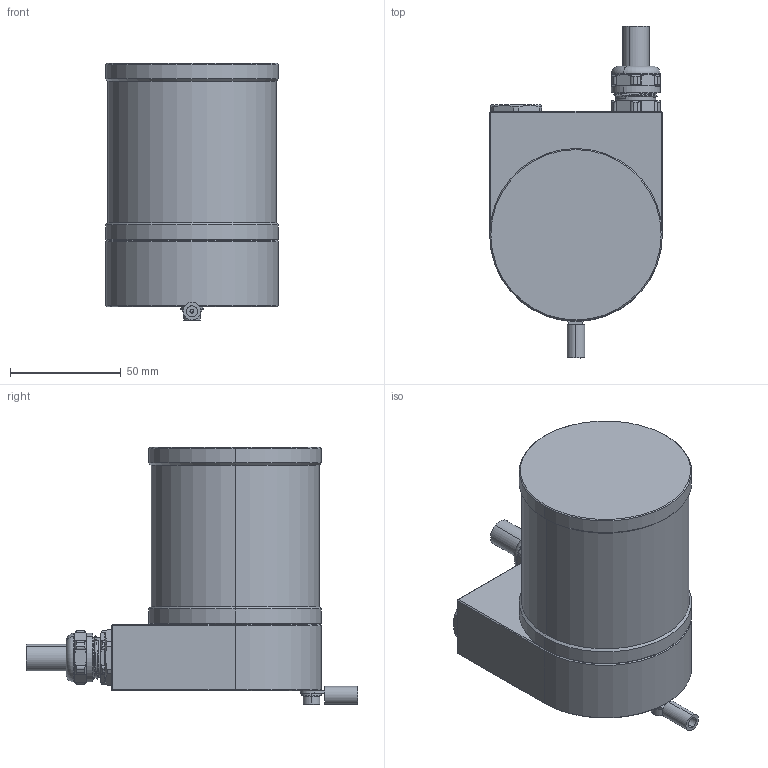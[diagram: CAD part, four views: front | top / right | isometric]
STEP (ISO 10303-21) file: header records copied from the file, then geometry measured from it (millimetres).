
FILE_DESCRIPTION (( 'STEP AP214' ), '1' );
FILE_NAME ('drawing-oc-7-at-800-aem-hccnnn-y-2rw-n.STEP', '2023-06-26T11:52:40', ( '' ), ( '' ), 'SwSTEP 2.0', 'SolidWorks 2022', '' );
FILE_SCHEMA (( 'AUTOMOTIVE_DESIGN' ));
Length unit declared in the file: millimetre
Products named in the file (1): drawing-oc-7-at-800-aem-hccnnn-y-2rw-n
Bounding box: 78 x 150.02 x 116.2 mm (x, y, z)
Volume: 274872 mm3; surface area: 96870.5 mm2
Topology: 17 solids, 23 shells, 947 faces, 2391 edges, 1527 vertices
Faces by surface type: plane 448, cylinder 253, cone 131, bspline 107, torus 8
Entity records: 41386 total; most frequent: CARTESIAN_POINT 8991, ORIENTED_EDGE 4702, DIRECTION 4150, EDGE_CURVE 2351, VERTEX_POINT 1527, LINE 1430, VECTOR 1430, AXIS2_PLACEMENT_3D 1360
